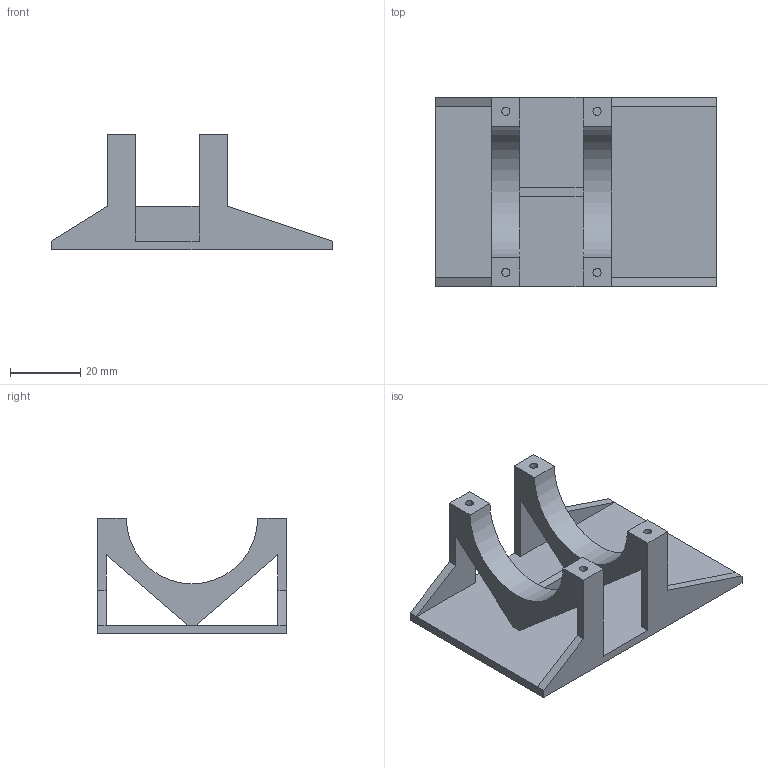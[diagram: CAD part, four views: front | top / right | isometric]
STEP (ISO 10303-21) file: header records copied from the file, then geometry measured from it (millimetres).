
FILE_DESCRIPTION(('CATIA V5 STEP Exchange'),'2;1');
FILE_NAME('X:\XDrive\---CAD---\--- 3D Drucker ---\K40\Luftpumpe_Halter_Unterteil.stp','2023-03-24T16:59:53+00:00',('none'),('none'),'CATIA Version 5 Release 19 SP 2 (IN-10)','CATIA V5 STEP AP203','none');
FILE_SCHEMA(('CONFIG_CONTROL_DESIGN'));
Length unit declared in the file: millimetre
Products named in the file (1): Luftpumpe_Halter_Unterteil
Bounding box: 80 x 54 x 33 mm (x, y, z)
Volume: 22310.1 mm3; surface area: 16954.4 mm2
Topology: 1 solids, 1 shells, 43 faces, 128 edges, 84 vertices
Faces by surface type: plane 33, cylinder 10
Entity records: 1383 total; most frequent: ORIENTED_EDGE 256, CARTESIAN_POINT 239, DIRECTION 180, EDGE_CURVE 128, VECTOR 108, LINE 108, VERTEX_POINT 84, EDGE_LOOP 48
